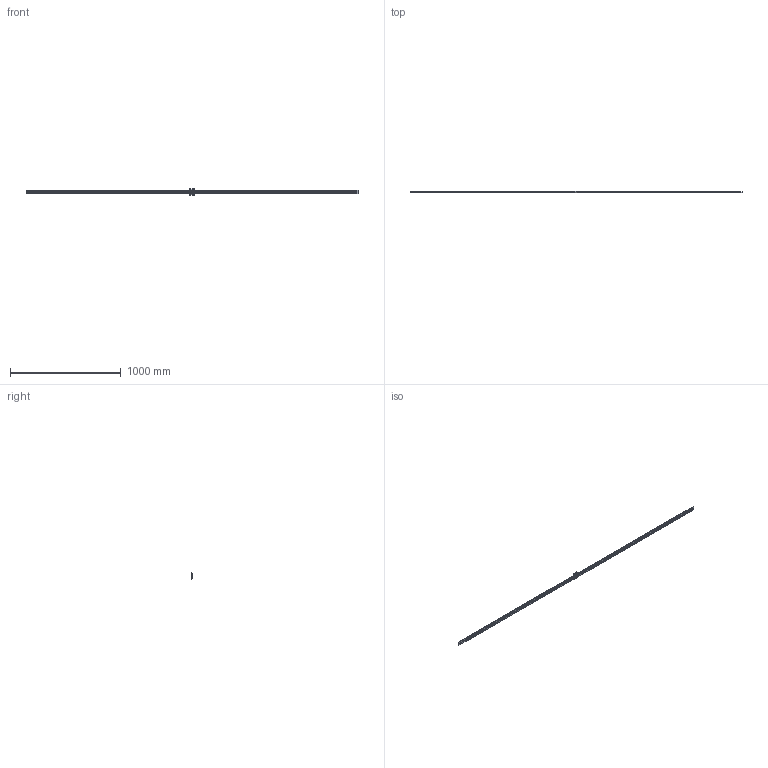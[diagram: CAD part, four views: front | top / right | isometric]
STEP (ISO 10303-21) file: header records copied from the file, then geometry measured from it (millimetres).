
FILE_DESCRIPTION(/* description */ ('STEP AP214'),/* implementation_level */ '2;1');
FILE_NAME(/* name */ 'SHW17CA1SSM-3000LTM_G20_0_Without_grease_nipple_1474-5_0_0_01',/* time_stamp */ '2024-02-12T10:03:39+01:00',/* author */ ('License CC BY-ND 4.0'),/* organization */ ('CADENAS'),/* preprocessor_version */ 'ST-DEVELOPER v19.3',/* originating_system */ 'PARTsolutions',/* authorisation */ ' ');
FILE_SCHEMA (('AUTOMOTIVE_DESIGN {1 0 10303 214 3 1 1}'));
Length unit declared in the file: millimetre
Products named in the file (4): SHW17CA1SSM-3000LTM_G20_0_Without_grease_nipple_1474-5_0_0_01; SHW17CAM300020 Track; SHW17CAMSS1 Slide12-50; -SHW_grease_nipple_joint
Assembly tree (3 placements, depth 2):
  SHW17CA1SSM-3000LTM_G20_0_Without_grease_nipple_1474-5_0_0_01
    SHW17CAM300020 Track
    SHW17CAMSS1 Slide12-50
    -SHW_grease_nipple_joint
Bounding box: 3000 x 17 x 60 mm (x, y, z)
Volume: 796928.3 mm3; surface area: 284983.7 mm2
Topology: 2 solids, 2 shells, 649 faces, 1459 edges, 967 vertices
Faces by surface type: cylinder 364, plane 273, cone 12
Full cylindrical faces by diameter (mm): 3 x2, 3.3 x6, 4.5 x150, 7.5 x150
Entity records: 17475 total; most frequent: DIRECTION 3209, CARTESIAN_POINT 2743, ORIENTED_EDGE 2262, EDGE_LOOP 1433, FACE_BOUND 1433, AXIS2_PLACEMENT_3D 1425, EDGE_CURVE 1131, VERTEX_POINT 958
